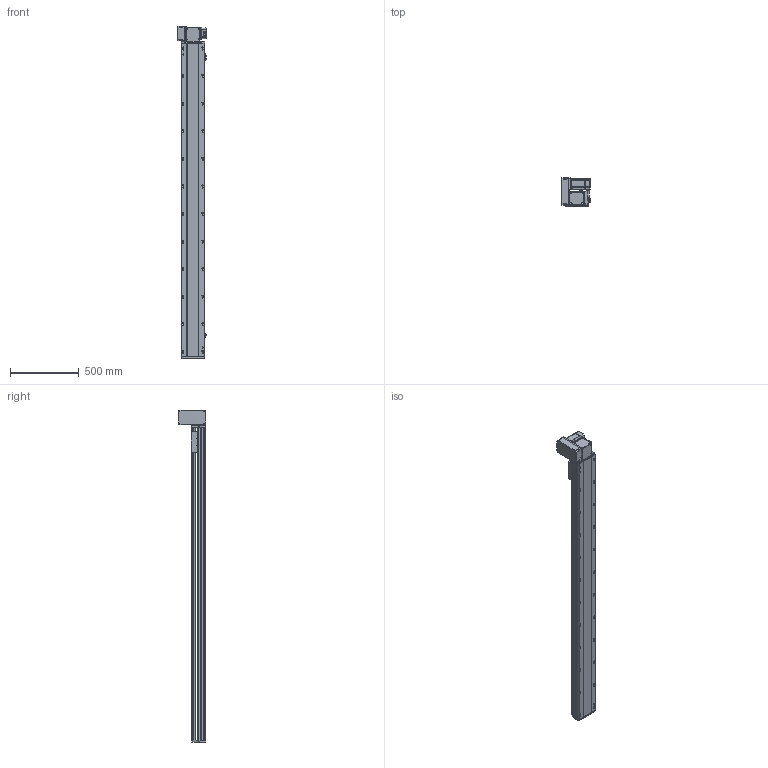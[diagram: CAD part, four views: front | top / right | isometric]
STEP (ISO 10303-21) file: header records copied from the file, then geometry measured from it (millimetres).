
FILE_DESCRIPTION (( 'STEP AP214' ), '1' );
FILE_NAME ('RTB17S-XX-2000-LW-M75-C4.STEP', '2025-12-12T01:10:49', ( '' ), ( '' ), 'SwSTEP 2.0', 'SolidWorks 2018', '' );
FILE_SCHEMA (( 'AUTOMOTIVE_DESIGN' ));
Length unit declared in the file: millimetre
Products named in the file (15): RTB17S-L-007奻裔^RTB17S-XX-XX-LW-M75-C4; RTB22S-GY-005P^RTB17S-LW-々湍釱蚾饜-750W_RTB17S-XX-XX-LW-M75-C4; RTH13-BL-012覜茼え俋离^RTB17S-賑釱_RTB17S-XX-XX-LW-M75-C4; RTB17S-L-001-耜醱啣^RTB17S-XX-XX-LW-M75-C4; RTB22S-GY-018P^RTB17S-LW-々湍釱蚾饜-750W_RTB17S-XX-XX-LW-M75-C4; RTB17-R-011菁釱^RTB17S-XX-XX-LW-M75-C4; RTB17S-XX-2000-LW-M75-C4; RTB17S-賑釱^RTB17S-XX-XX-LW-M75-C4; RTB17S-LW-々湍釱蚾饜-750W^RTB17S-XX-XX-LW-M75-C4; 750W萇儂^RTB17S-XX-XX-LW-M75-C4; RTB17S-L-004-賑釱^RTB17S-賑釱_RTB17S-XX-XX-LW-M75-C4; EE672^RTB17S-XX-XX-LW-M75-C4; RTB17S-L-014-T20-P75--々湍釱^RTB17S-LW-々湍釱蚾饜-750W_RTB17S-XX-XX-LW-M75-C4; RTB22S-GY-008-M75--萇儂啣^RTB17S-LW-々湍釱蚾饜-750W_RTB17S-XX-XX-LW-M75-C4; RTB22S-GY-017P^RTB17S-LW-々湍釱蚾饜-750W_RTB17S-XX-XX-LW-M75-C4
Assembly tree (17 placements, depth 3):
  RTB17S-XX-2000-LW-M75-C4
    RTB17-R-011菁釱^RTB17S-XX-XX-LW-M75-C4
    EE672^RTB17S-XX-XX-LW-M75-C4  x3
    RTB17S-L-001-耜醱啣^RTB17S-XX-XX-LW-M75-C4
    RTB17S-賑釱^RTB17S-XX-XX-LW-M75-C4
      RTB17S-L-004-賑釱^RTB17S-賑釱_RTB17S-XX-XX-LW-M75-C4
      RTH13-BL-012覜茼え俋离^RTB17S-賑釱_RTB17S-XX-XX-LW-M75-C4
    RTB17S-L-007奻裔^RTB17S-XX-XX-LW-M75-C4
    750W萇儂^RTB17S-XX-XX-LW-M75-C4
    RTB17S-LW-々湍釱蚾饜-750W^RTB17S-XX-XX-LW-M75-C4
      RTB17S-L-014-T20-P75--々湍釱^RTB17S-LW-々湍釱蚾饜-750W_RTB17S-XX-XX-LW-M75-C4
      RTB22S-GY-005P^RTB17S-LW-々湍釱蚾饜-750W_RTB17S-XX-XX-LW-M75-C4
      RTB22S-GY-017P^RTB17S-LW-々湍釱蚾饜-750W_RTB17S-XX-XX-LW-M75-C4  x2
      RTB22S-GY-008-M75--萇儂啣^RTB17S-LW-々湍釱蚾饜-750W_RTB17S-XX-XX-LW-M75-C4
      RTB22S-GY-018P^RTB17S-LW-々湍釱蚾饜-750W_RTB17S-XX-XX-LW-M75-C4
Bounding box: 210.4 x 201.5 x 2407.5 mm (x, y, z)
Volume: 18454919 mm3; surface area: 3298349 mm2
Topology: 17 solids, 17 shells, 2169 faces, 6052 edges, 3914 vertices
Faces by surface type: plane 980, cylinder 773, bspline 294, cone 110, sphere 8, torus 4
Entity records: 61942 total; most frequent: CARTESIAN_POINT 18316, ORIENTED_EDGE 8948, DIRECTION 8312, EDGE_CURVE 4474, AXIS2_PLACEMENT_3D 2934, VERTEX_POINT 2918, LINE 2444, VECTOR 2444
